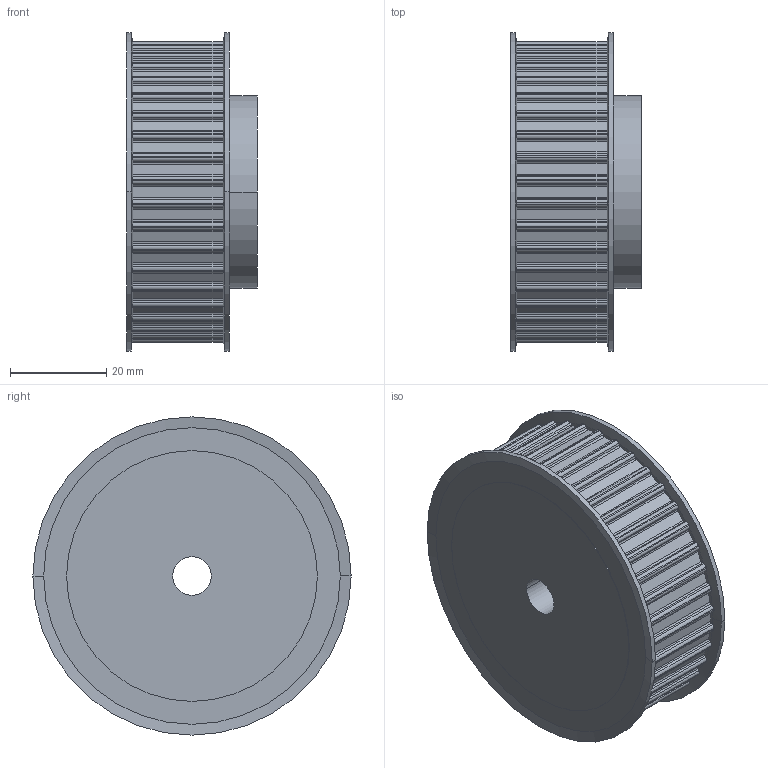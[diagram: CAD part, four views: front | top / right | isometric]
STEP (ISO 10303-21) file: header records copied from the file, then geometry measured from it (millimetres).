
FILE_DESCRIPTION( ( '' ), '1' );
FILE_NAME( 'C:/Users/Stangenbergd/Documents/CAD_Step/1/16634000.stp', '2021-10-19T09:36:48', ( '' ), ( '' ), ' ', ' ', ' ' );
FILE_SCHEMA( ( 'CONFIG_CONTROL_DESIGN' ) );
Length unit declared in the file: millimetre
Products named in the file (1): 1
Bounding box: 27.17 x 66 x 66 mm (x, y, z)
Volume: 68284.4 mm3; surface area: 14151.6 mm2
Topology: 1 solids, 1 shells, 505 faces, 1332 edges, 832 vertices
Faces by surface type: plane 285, cylinder 212, cone 8
Entity records: 15682 total; most frequent: DIRECTION 2936, CARTESIAN_POINT 2670, ORIENTED_EDGE 2664, EDGE_CURVE 1332, AXIS2_PLACEMENT_3D 1098, VERTEX_POINT 832, LINE 740, VECTOR 740
